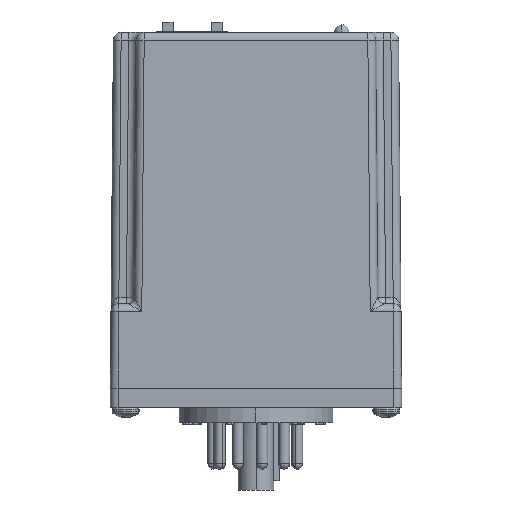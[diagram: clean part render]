
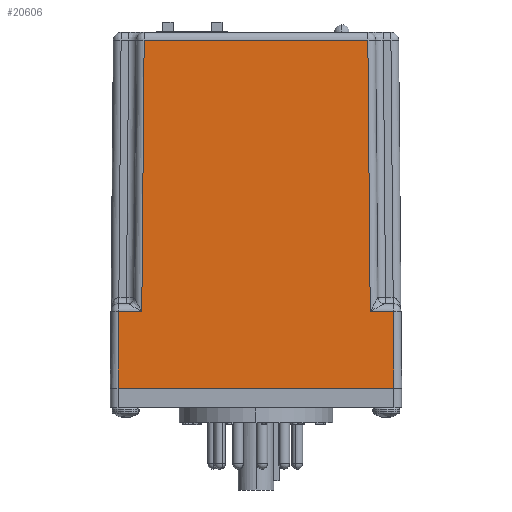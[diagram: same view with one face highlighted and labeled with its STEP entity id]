
A CAD part, left-side view. The second image highlights one B-rep face of the part: STEP entity #20606.
In plain terms, the highlighted planar face has unit normal (-1, 0, 0.009).
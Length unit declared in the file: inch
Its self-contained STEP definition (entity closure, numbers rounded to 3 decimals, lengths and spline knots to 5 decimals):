
#3406 = CARTESIAN_POINT ( 'NONE',  ( -0.86954, -0.93104, 0.62555 ) ) ;
#3407 = DIRECTION ( 'NONE',  ( 0., 1., 0. ) ) ;
#3408 = VECTOR ( 'NONE', #3407, 39.37008 ) ;
#3409 = CARTESIAN_POINT ( 'NONE',  ( -0.86954, -0.9305, 0.62555 ) ) ;
#3410 = LINE ( 'NONE', #3409, #3408 ) ;
#3411 = CARTESIAN_POINT ( 'NONE',  ( -0.86954, -1.11904, 0.62555 ) ) ;
#3412 = DIRECTION ( 'NONE',  ( 0.009, 0.009, 1. ) ) ;
#3413 = VECTOR ( 'NONE', #3412, 39.37008 ) ;
#3414 = CARTESIAN_POINT ( 'NONE',  ( -0.875, -1.12451, -0.00055 ) ) ;
#3415 = LINE ( 'NONE', #3414, #3413 ) ;
#3439 = DIRECTION ( 'NONE',  ( 0., 1., 0. ) ) ;
#3440 = VECTOR ( 'NONE', #3439, 39.37008 ) ;
#3441 = CARTESIAN_POINT ( 'NONE',  ( -0.86954, 1.1185, 0.62555 ) ) ;
#3442 = LINE ( 'NONE', #3441, #3440 ) ;
#3443 = CARTESIAN_POINT ( 'NONE',  ( -0.86954, 0.93104, 0.62555 ) ) ;
#3444 = CARTESIAN_POINT ( 'NONE',  ( -0.85024, 0.91174, 2.83755 ) ) ;
#3445 = DIRECTION ( 'NONE',  ( -0.009, 0.009, -1. ) ) ;
#3446 = VECTOR ( 'NONE', #3445, 39.37008 ) ;
#3447 = CARTESIAN_POINT ( 'NONE',  ( -0.87484, 0.93634, 0.01853 ) ) ;
#3448 = LINE ( 'NONE', #3447, #3446 ) ;
#3449 = DIRECTION ( 'NONE',  ( 0.009, 0., 1. ) ) ;
#3450 = DIRECTION ( 'NONE',  ( -1., 0., 0.009 ) ) ;
#3451 = CARTESIAN_POINT ( 'NONE',  ( -0.875, -1.1875, 0. ) ) ;
#3452 = AXIS2_PLACEMENT_3D ( 'NONE', #3451, #3450, #3449 ) ;
#3453 = PLANE ( 'NONE',  #3452 ) ;
#3454 = FACE_OUTER_BOUND ( 'NONE', #20609, .T. ) ;
#3462 = DIRECTION ( 'NONE',  ( 0., 1., 0. ) ) ;
#3463 = VECTOR ( 'NONE', #3462, 39.37008 ) ;
#3464 = CARTESIAN_POINT ( 'NONE',  ( -0.85024, 0.91119, 2.83755 ) ) ;
#3465 = LINE ( 'NONE', #3464, #3463 ) ;
#3466 = CARTESIAN_POINT ( 'NONE',  ( -0.85024, -0.91174, 2.83755 ) ) ;
#3467 = DIRECTION ( 'NONE',  ( 0.009, 0.009, 1. ) ) ;
#3468 = VECTOR ( 'NONE', #3467, 39.37008 ) ;
#3469 = CARTESIAN_POINT ( 'NONE',  ( -0.87502, -0.93652, -0.00219 ) ) ;
#3470 = LINE ( 'NONE', #3469, #3468 ) ;
#3492 = CARTESIAN_POINT ( 'NONE',  ( -0.875, -1.1245, 0. ) ) ;
#3493 = DIRECTION ( 'NONE',  ( 0., -1., 0. ) ) ;
#3494 = VECTOR ( 'NONE', #3493, 39.37008 ) ;
#3495 = CARTESIAN_POINT ( 'NONE',  ( -0.875, -1.1875, 0. ) ) ;
#3496 = LINE ( 'NONE', #3495, #3494 ) ;
#3497 = CARTESIAN_POINT ( 'NONE',  ( -0.875, 1.1245, 0. ) ) ;
#3498 = DIRECTION ( 'NONE',  ( -0.009, 0.009, -1. ) ) ;
#3499 = VECTOR ( 'NONE', #3498, 39.37008 ) ;
#3500 = CARTESIAN_POINT ( 'NONE',  ( -0.87482, 1.12433, 0.02017 ) ) ;
#3501 = LINE ( 'NONE', #3500, #3499 ) ;
#3502 = CARTESIAN_POINT ( 'NONE',  ( -0.86954, 1.11904, 0.62555 ) ) ;
#20575 = ORIENTED_EDGE ( 'NONE', *, *, #20577, .T. ) ;
#20577 = EDGE_CURVE ( 'NONE', #20628, #20579, #3415, .T. ) ;
#20579 = VERTEX_POINT ( 'NONE', #3411 ) ;
#20581 = ORIENTED_EDGE ( 'NONE', *, *, #20583, .T. ) ;
#20583 = EDGE_CURVE ( 'NONE', #20579, #20585, #3410, .T. ) ;
#20585 = VERTEX_POINT ( 'NONE', #3406 ) ;
#20587 = ORIENTED_EDGE ( 'NONE', *, *, #20589, .T. ) ;
#20589 = EDGE_CURVE ( 'NONE', #20585, #20591, #3470, .T. ) ;
#20591 = VERTEX_POINT ( 'NONE', #3466 ) ;
#20593 = ORIENTED_EDGE ( 'NONE', *, *, #20595, .T. ) ;
#20595 = EDGE_CURVE ( 'NONE', #20591, #20614, #3465, .T. ) ;
#20606 = ADVANCED_FACE ( 'NONE', ( #3454 ), #3453, .T. ) ;
#20609 = EDGE_LOOP ( 'NONE', ( #20612, #20616, #20621, #20625, #20575, #20581, #20587, #20593 ) ) ;
#20612 = ORIENTED_EDGE ( 'NONE', *, *, #20613, .T. ) ;
#20613 = EDGE_CURVE ( 'NONE', #20614, #20615, #3448, .T. ) ;
#20614 = VERTEX_POINT ( 'NONE', #3444 ) ;
#20615 = VERTEX_POINT ( 'NONE', #3443 ) ;
#20616 = ORIENTED_EDGE ( 'NONE', *, *, #20617, .T. ) ;
#20617 = EDGE_CURVE ( 'NONE', #20615, #20619, #3442, .T. ) ;
#20619 = VERTEX_POINT ( 'NONE', #3502 ) ;
#20621 = ORIENTED_EDGE ( 'NONE', *, *, #20623, .T. ) ;
#20623 = EDGE_CURVE ( 'NONE', #20619, #20624, #3501, .T. ) ;
#20624 = VERTEX_POINT ( 'NONE', #3497 ) ;
#20625 = ORIENTED_EDGE ( 'NONE', *, *, #20626, .T. ) ;
#20626 = EDGE_CURVE ( 'NONE', #20624, #20628, #3496, .T. ) ;
#20628 = VERTEX_POINT ( 'NONE', #3492 ) ;
